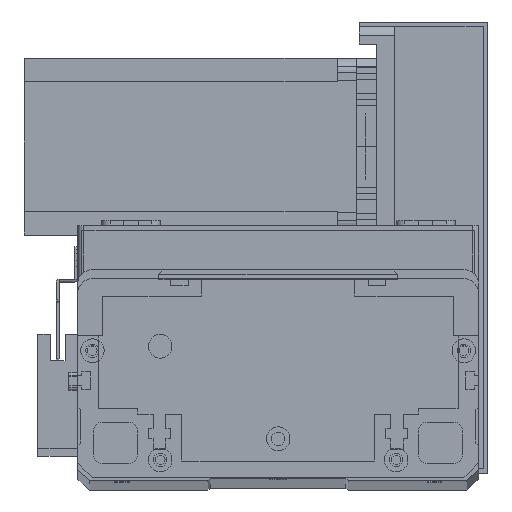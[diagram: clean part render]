
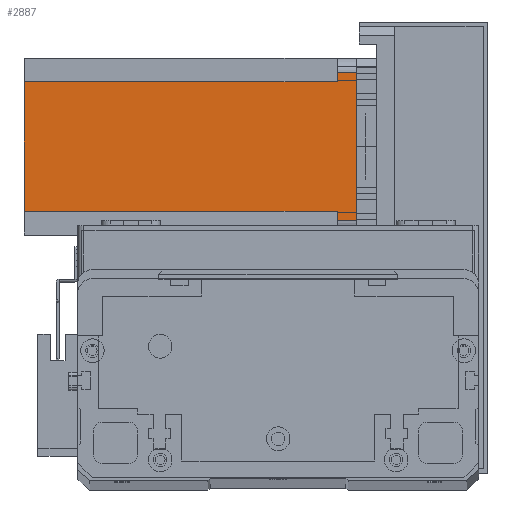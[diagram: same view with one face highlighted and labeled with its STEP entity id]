
A CAD part, top view. The second image highlights one B-rep face of the part: STEP entity #2887.
In plain terms, the highlighted planar face has unit normal (0, 0, 1) as drawn and (0, 1, 0) by its records, which use the part's own axes.
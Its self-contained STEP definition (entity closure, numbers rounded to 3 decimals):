
#373 = ORIENTED_EDGE ( 'NONE', *, *, #4182, .T. ) ;
#631 = VECTOR ( 'NONE', #19999, 1000. ) ;
#729 = CARTESIAN_POINT ( 'NONE',  ( 52., 60., -112.5 ) ) ;
#832 = CARTESIAN_POINT ( 'NONE',  ( 52., 60., -6.5 ) ) ;
#1083 = ORIENTED_EDGE ( 'NONE', *, *, #3571, .F. ) ;
#1402 = VECTOR ( 'NONE', #19895, 1000. ) ;
#2230 = CARTESIAN_POINT ( 'NONE',  ( 8., 60., -6.5 ) ) ;
#2451 = EDGE_CURVE ( 'NONE', #17460, #24937, #8586, .T. ) ;
#2487 = EDGE_CURVE ( 'NONE', #29018, #17460, #19331, .T. ) ;
#2824 = LINE ( 'NONE', #7911, #8527 ) ;
#2828 = VERTEX_POINT ( 'NONE', #15012 ) ;
#2887 = ADVANCED_FACE ( 'NONE', ( #8223 ), #5954, .T. ) ;
#3571 = EDGE_CURVE ( 'NONE', #29018, #2828, #28918, .T. ) ;
#3719 = DIRECTION ( 'NONE',  ( 0., 0., -1. ) ) ;
#4008 = DIRECTION ( 'NONE',  ( 0., 0., 1. ) ) ;
#4113 = DIRECTION ( 'NONE',  ( 0., 1., 0. ) ) ;
#4182 = EDGE_CURVE ( 'NONE', #18130, #17966, #2824, .T. ) ;
#4417 = CARTESIAN_POINT ( 'NONE',  ( 55., 60., 0. ) ) ;
#5146 = VECTOR ( 'NONE', #20090, 1000. ) ;
#5954 = PLANE ( 'NONE',  #23085 ) ;
#6706 = CARTESIAN_POINT ( 'NONE',  ( 0., 60., -112.5 ) ) ;
#6958 = EDGE_CURVE ( 'NONE', #18768, #17966, #9789, .T. ) ;
#7399 = VECTOR ( 'NONE', #24204, 1000. ) ;
#7911 = CARTESIAN_POINT ( 'NONE',  ( 55., 60., -112.5 ) ) ;
#8223 = FACE_OUTER_BOUND ( 'NONE', #16831, .T. ) ;
#8527 = VECTOR ( 'NONE', #3719, 1000. ) ;
#8586 = LINE ( 'NONE', #20105, #1402 ) ;
#9379 = CARTESIAN_POINT ( 'NONE',  ( 5., 60., -6.5 ) ) ;
#9553 = LINE ( 'NONE', #16786, #29181 ) ;
#9789 = LINE ( 'NONE', #22802, #15206 ) ;
#10334 = ORIENTED_EDGE ( 'NONE', *, *, #11916, .T. ) ;
#10576 = EDGE_CURVE ( 'NONE', #18130, #24937, #18273, .T. ) ;
#11480 = EDGE_CURVE ( 'NONE', #18687, #18768, #25659, .T. ) ;
#11916 = EDGE_CURVE ( 'NONE', #18687, #2828, #9553, .T. ) ;
#15012 = CARTESIAN_POINT ( 'NONE',  ( 8., 60., -112.5 ) ) ;
#15206 = VECTOR ( 'NONE', #22842, 1000. ) ;
#16244 = ORIENTED_EDGE ( 'NONE', *, *, #2487, .T. ) ;
#16448 = ORIENTED_EDGE ( 'NONE', *, *, #6958, .F. ) ;
#16786 = CARTESIAN_POINT ( 'NONE',  ( 0., 60., -112.5 ) ) ;
#16831 = EDGE_LOOP ( 'NONE', ( #22457, #373, #16448, #26836, #10334, #1083, #16244, #26720 ) ) ;
#16969 = DIRECTION ( 'NONE',  ( -1., 0., 0. ) ) ;
#17460 = VERTEX_POINT ( 'NONE', #9379 ) ;
#17966 = VERTEX_POINT ( 'NONE', #22477 ) ;
#18130 = VERTEX_POINT ( 'NONE', #4417 ) ;
#18273 = LINE ( 'NONE', #21639, #5146 ) ;
#18687 = VERTEX_POINT ( 'NONE', #729 ) ;
#18768 = VERTEX_POINT ( 'NONE', #832 ) ;
#19331 = LINE ( 'NONE', #19490, #631 ) ;
#19490 = CARTESIAN_POINT ( 'NONE',  ( 8., 60., -6.5 ) ) ;
#19895 = DIRECTION ( 'NONE',  ( 0., 0., 1. ) ) ;
#19999 = DIRECTION ( 'NONE',  ( -1., 0., 0. ) ) ;
#20090 = DIRECTION ( 'NONE',  ( -1., 0., 0. ) ) ;
#20105 = CARTESIAN_POINT ( 'NONE',  ( 5., 60., -112.5 ) ) ;
#21639 = CARTESIAN_POINT ( 'NONE',  ( 0., 60., 0. ) ) ;
#22457 = ORIENTED_EDGE ( 'NONE', *, *, #10576, .F. ) ;
#22477 = CARTESIAN_POINT ( 'NONE',  ( 55., 60., -6.5 ) ) ;
#22802 = CARTESIAN_POINT ( 'NONE',  ( 52., 60., -6.5 ) ) ;
#22842 = DIRECTION ( 'NONE',  ( 1., 0., 0. ) ) ;
#22850 = CARTESIAN_POINT ( 'NONE',  ( 8., 60., -112.5 ) ) ;
#23085 = AXIS2_PLACEMENT_3D ( 'NONE', #6706, #4113, #4008 ) ;
#23456 = DIRECTION ( 'NONE',  ( 0., 0., -1. ) ) ;
#24178 = CARTESIAN_POINT ( 'NONE',  ( 52., 60., -112.5 ) ) ;
#24204 = DIRECTION ( 'NONE',  ( 0., 0., 1. ) ) ;
#24937 = VERTEX_POINT ( 'NONE', #29366 ) ;
#25659 = LINE ( 'NONE', #24178, #7399 ) ;
#26720 = ORIENTED_EDGE ( 'NONE', *, *, #2451, .T. ) ;
#26836 = ORIENTED_EDGE ( 'NONE', *, *, #11480, .F. ) ;
#27515 = VECTOR ( 'NONE', #23456, 1000. ) ;
#28918 = LINE ( 'NONE', #22850, #27515 ) ;
#29018 = VERTEX_POINT ( 'NONE', #2230 ) ;
#29181 = VECTOR ( 'NONE', #16969, 1000. ) ;
#29366 = CARTESIAN_POINT ( 'NONE',  ( 5., 60., 0. ) ) ;
